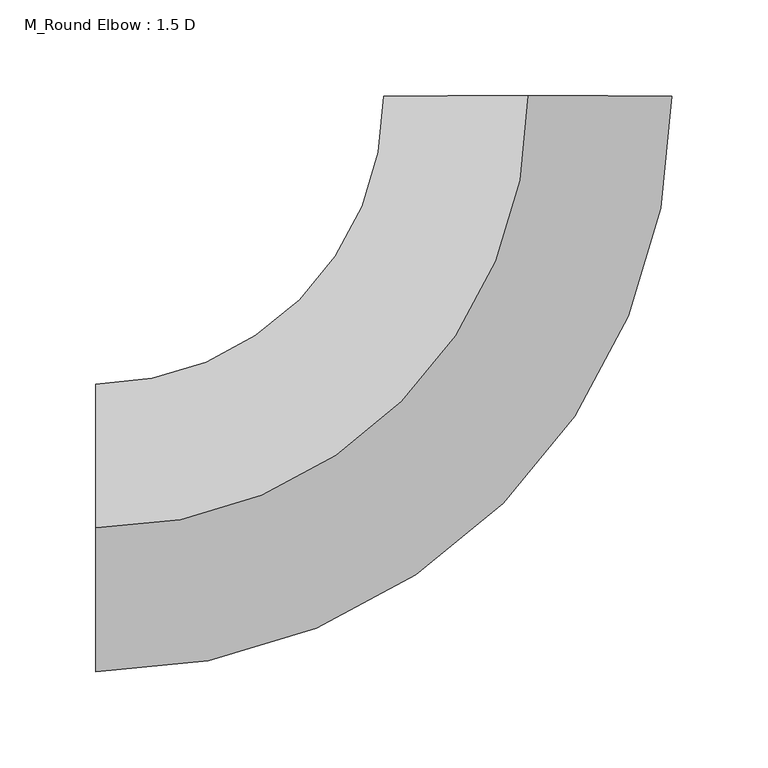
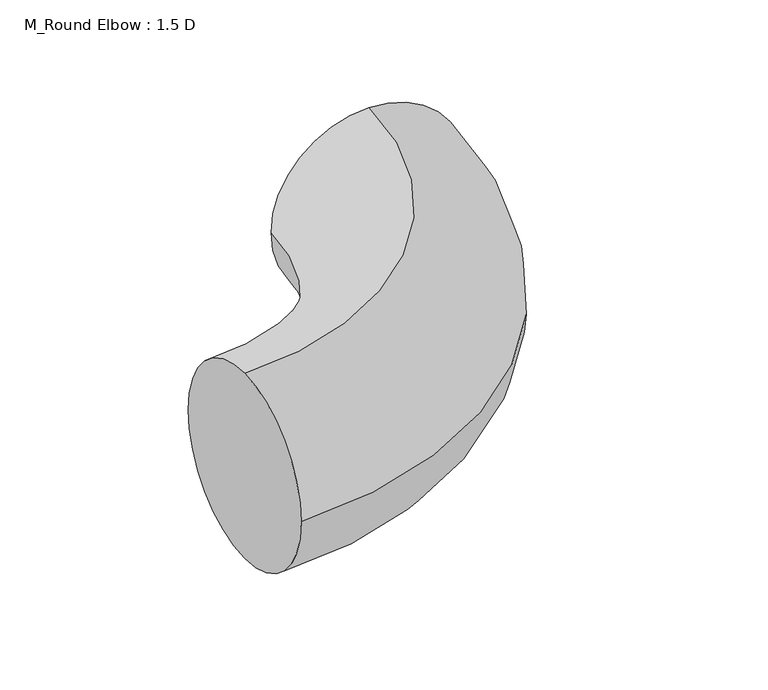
"""IFC4 building model written with IfcOpenShell, lengths in millimetres: duct fitting geometry, M_Round Elbow : 1.5 D."""

from ifc_helpers import new_model, si_unit, point, frame, origin, place, context, project, spatial, circle_curve, ellipse_curve, trimmed, source, transform, mapped, element, save
from ifc_brep_helpers import plane_surface, revolved_surface, advanced_brep


def m_round_elbow_1_5_d_2e586196(model_context):
    return source(origin(), model_context, "Body", "AdvancedBrep", [
        advanced_brep(
        [(-225.0, 0.0, 75.0), (-225.0, 75.0, 0.0), (-225.0, 0.0, -75.0), (-225.0, -75.0, 0.0), (0.0, 225.0, 75.0), (75.0, 225.0, 0.0), (0.0, 225.0, -75.0), (-75.0, 225.0, 0.0)],
        [
            (0, 1, circle_curve(frame((-225.0, 0.0, 0.0), z_axis=(-1.0, 0.0, 0.0), x_axis=(0.0, 1.0, 0.0)), 75.0)),
            (1, 2, circle_curve(frame((-225.0, 0.0, 0.0), z_axis=(-1.0, 0.0, 0.0), x_axis=(0.0, 1.0, 0.0)), 75.0)),
            (2, 3, circle_curve(frame((-225.0, 0.0, 0.0), z_axis=(-1.0, 0.0, 0.0), x_axis=(0.0, 1.0, 0.0)), 75.0)),
            (3, 0, circle_curve(frame((-225.0, 0.0, 0.0), z_axis=(-1.0, 0.0, 0.0), x_axis=(0.0, 1.0, 0.0)), 75.0)),
            (4, 5, circle_curve(frame((0.0, 225.0, 0.0), z_axis=(0.0, 1.0, 0.0), x_axis=(-1.0, 0.0, 0.0)), 75.0)),
            (5, 6, circle_curve(frame((0.0, 225.0, 0.0), z_axis=(0.0, 1.0, 0.0), x_axis=(-1.0, 0.0, 0.0)), 75.0)),
            (6, 7, circle_curve(frame((0.0, 225.0, 0.0), z_axis=(0.0, 1.0, 0.0), x_axis=(-1.0, 0.0, 0.0)), 75.0)),
            (7, 4, circle_curve(frame((0.0, 225.0, 0.0), z_axis=(0.0, 1.0, 0.0), x_axis=(-1.0, 0.0, 0.0)), 75.0)),
            (7, 1, circle_curve(frame((-225.0, 225.0, 0.0), z_axis=(0.0, 0.0, -1.0), x_axis=(0.0, -1.0, 0.0)), 150.0)),
            (0, 4, circle_curve(frame((-225.0, 225.0, 75.0), z_axis=(0.0, 0.0, 1.0), x_axis=(0.0, -1.0, 0.0)), 225.0)),
            (6, 2, circle_curve(frame((-225.0, 225.0, -75.0), z_axis=(0.0, 0.0, -1.0), x_axis=(0.0, -1.0, 0.0)), 225.0)),
            (5, 3, circle_curve(frame((-225.0, 225.0, 0.0), z_axis=(0.0, 0.0, -1.0), x_axis=(0.0, -1.0, 0.0)), 300.0)),
        ],
        [
            plane_surface(frame((-225.0, 0.0, 0.0), z_axis=(-1.0, 0.0, 0.0), x_axis=(0.0, 0.0, 1.0))),
            plane_surface(frame((0.0, 225.0, 0.0), z_axis=(0.0, 1.0, 0.0), x_axis=(0.0, 0.0, 1.0))),
            revolved_surface(trimmed(ellipse_curve(frame((-225.0, 0.0, 0.0), z_axis=(-1.0, 0.0, 0.0), x_axis=(0.0, 1.0, 0.0)), 75.0, 75.0), [point((-225.0, 0.0, 75.0))], [point((-225.0, 75.0, 0.0))], True, "CARTESIAN"), (-225.0, 225.0, 0.0), (0.0, 0.0, 1.0)),
            revolved_surface(trimmed(ellipse_curve(frame((-225.0, 0.0, 0.0), z_axis=(-1.0, 0.0, 0.0), x_axis=(0.0, 1.0, 0.0)), 75.0, 75.0), [point((-225.0, 75.0, 0.0))], [point((-225.0, 0.0, -75.0))], True, "CARTESIAN"), (-225.0, 225.0, 0.0), (0.0, 0.0, 1.0)),
            revolved_surface(trimmed(ellipse_curve(frame((-225.0, 0.0, 0.0), z_axis=(-1.0, 0.0, 0.0), x_axis=(0.0, 1.0, 0.0)), 75.0, 75.0), [point((-225.0, 0.0, -75.0))], [point((-225.0, -75.0, 0.0))], True, "CARTESIAN"), (-225.0, 225.0, 0.0), (0.0, 0.0, 1.0)),
            revolved_surface(trimmed(ellipse_curve(frame((-225.0, 0.0, 0.0), z_axis=(-1.0, 0.0, 0.0), x_axis=(0.0, 1.0, 0.0)), 75.0, 75.0), [point((-225.0, -75.0, 0.0))], [point((-225.0, 0.0, 75.0))], True, "CARTESIAN"), (-225.0, 225.0, 0.0), (0.0, 0.0, 1.0)),
        ],
        [
            (0, [[1, 2, 3, 4]]),
            (1, [[5, 6, 7, 8]]),
            (2, [[9, -1, 10, -8]]),
            (3, [[11, -2, -9, -7]]),
            (4, [[12, -3, -11, -6]]),
            (5, [[-10, -4, -12, -5]]),
        ],
    ),
        advanced_brep(
        [(-225.0, 0.0, 75.0), (-225.0, 75.0, 0.0), (-225.0, 0.0, -75.0), (-225.0, -75.0, 0.0), (0.0, 225.0, 75.0), (75.0, 225.0, 0.0), (0.0, 225.0, -75.0), (-75.0, 225.0, 0.0)],
        [
            (0, 1, circle_curve(frame((-225.0, 0.0, 0.0), z_axis=(-1.0, 0.0, 0.0), x_axis=(0.0, 1.0, 0.0)), 75.0)),
            (1, 2, circle_curve(frame((-225.0, 0.0, 0.0), z_axis=(-1.0, 0.0, 0.0), x_axis=(0.0, 1.0, 0.0)), 75.0)),
            (2, 3, circle_curve(frame((-225.0, 0.0, 0.0), z_axis=(-1.0, 0.0, 0.0), x_axis=(0.0, 1.0, 0.0)), 75.0)),
            (3, 0, circle_curve(frame((-225.0, 0.0, 0.0), z_axis=(-1.0, 0.0, 0.0), x_axis=(0.0, 1.0, 0.0)), 75.0)),
            (4, 5, circle_curve(frame((0.0, 225.0, 0.0), z_axis=(0.0, 1.0, 0.0), x_axis=(-1.0, 0.0, 0.0)), 75.0)),
            (5, 6, circle_curve(frame((0.0, 225.0, 0.0), z_axis=(0.0, 1.0, 0.0), x_axis=(-1.0, 0.0, 0.0)), 75.0)),
            (6, 7, circle_curve(frame((0.0, 225.0, 0.0), z_axis=(0.0, 1.0, 0.0), x_axis=(-1.0, 0.0, 0.0)), 75.0)),
            (7, 4, circle_curve(frame((0.0, 225.0, 0.0), z_axis=(0.0, 1.0, 0.0), x_axis=(-1.0, 0.0, 0.0)), 75.0)),
            (7, 1, circle_curve(frame((-225.0, 225.0, 0.0), z_axis=(0.0, 0.0, -1.0), x_axis=(0.0, -1.0, 0.0)), 150.0)),
            (0, 4, circle_curve(frame((-225.0, 225.0, 75.0), z_axis=(0.0, 0.0, 1.0), x_axis=(0.0, -1.0, 0.0)), 225.0)),
            (6, 2, circle_curve(frame((-225.0, 225.0, -75.0), z_axis=(0.0, 0.0, -1.0), x_axis=(0.0, -1.0, 0.0)), 225.0)),
            (5, 3, circle_curve(frame((-225.0, 225.0, 0.0), z_axis=(0.0, 0.0, -1.0), x_axis=(0.0, -1.0, 0.0)), 300.0)),
        ],
        [
            plane_surface(frame((-225.0, 0.0, 0.0), z_axis=(-1.0, 0.0, 0.0), x_axis=(0.0, 0.0, 1.0))),
            plane_surface(frame((0.0, 225.0, 0.0), z_axis=(0.0, 1.0, 0.0), x_axis=(0.0, 0.0, 1.0))),
            revolved_surface(trimmed(ellipse_curve(frame((-225.0, 0.0, 0.0), z_axis=(-1.0, 0.0, 0.0), x_axis=(0.0, 1.0, 0.0)), 75.0, 75.0), [point((-225.0, 0.0, 75.0))], [point((-225.0, 75.0, 0.0))], True, "CARTESIAN"), (-225.0, 225.0, 0.0), (0.0, 0.0, 1.0)),
            revolved_surface(trimmed(ellipse_curve(frame((-225.0, 0.0, 0.0), z_axis=(-1.0, 0.0, 0.0), x_axis=(0.0, 1.0, 0.0)), 75.0, 75.0), [point((-225.0, 75.0, 0.0))], [point((-225.0, 0.0, -75.0))], True, "CARTESIAN"), (-225.0, 225.0, 0.0), (0.0, 0.0, 1.0)),
            revolved_surface(trimmed(ellipse_curve(frame((-225.0, 0.0, 0.0), z_axis=(-1.0, 0.0, 0.0), x_axis=(0.0, 1.0, 0.0)), 75.0, 75.0), [point((-225.0, 0.0, -75.0))], [point((-225.0, -75.0, 0.0))], True, "CARTESIAN"), (-225.0, 225.0, 0.0), (0.0, 0.0, 1.0)),
            revolved_surface(trimmed(ellipse_curve(frame((-225.0, 0.0, 0.0), z_axis=(-1.0, 0.0, 0.0), x_axis=(0.0, 1.0, 0.0)), 75.0, 75.0), [point((-225.0, -75.0, 0.0))], [point((-225.0, 0.0, 75.0))], True, "CARTESIAN"), (-225.0, 225.0, 0.0), (0.0, 0.0, 1.0)),
        ],
        [
            (0, [[1, 2, 3, 4]]),
            (1, [[5, 6, 7, 8]]),
            (2, [[9, -1, 10, -8]]),
            (3, [[11, -2, -9, -7]]),
            (4, [[12, -3, -11, -6]]),
            (5, [[-10, -4, -12, -5]]),
        ],
    ),
        advanced_brep(
        [(-225.0, 0.0, 75.0), (-225.0, 75.0, 0.0), (-225.0, 0.0, -75.0), (-225.0, -75.0, 0.0), (0.0, 225.0, 75.0), (75.0, 225.0, 0.0), (0.0, 225.0, -75.0), (-75.0, 225.0, 0.0)],
        [
            (0, 1, circle_curve(frame((-225.0, 0.0, 0.0), z_axis=(-1.0, 0.0, 0.0), x_axis=(0.0, 1.0, 0.0)), 75.0)),
            (1, 2, circle_curve(frame((-225.0, 0.0, 0.0), z_axis=(-1.0, 0.0, 0.0), x_axis=(0.0, 1.0, 0.0)), 75.0)),
            (2, 3, circle_curve(frame((-225.0, 0.0, 0.0), z_axis=(-1.0, 0.0, 0.0), x_axis=(0.0, 1.0, 0.0)), 75.0)),
            (3, 0, circle_curve(frame((-225.0, 0.0, 0.0), z_axis=(-1.0, 0.0, 0.0), x_axis=(0.0, 1.0, 0.0)), 75.0)),
            (4, 5, circle_curve(frame((0.0, 225.0, 0.0), z_axis=(0.0, 1.0, 0.0), x_axis=(-1.0, 0.0, 0.0)), 75.0)),
            (5, 6, circle_curve(frame((0.0, 225.0, 0.0), z_axis=(0.0, 1.0, 0.0), x_axis=(-1.0, 0.0, 0.0)), 75.0)),
            (6, 7, circle_curve(frame((0.0, 225.0, 0.0), z_axis=(0.0, 1.0, 0.0), x_axis=(-1.0, 0.0, 0.0)), 75.0)),
            (7, 4, circle_curve(frame((0.0, 225.0, 0.0), z_axis=(0.0, 1.0, 0.0), x_axis=(-1.0, 0.0, 0.0)), 75.0)),
            (7, 1, circle_curve(frame((-225.0, 225.0, 0.0), z_axis=(0.0, 0.0, -1.0), x_axis=(0.0, -1.0, 0.0)), 150.0)),
            (0, 4, circle_curve(frame((-225.0, 225.0, 75.0), z_axis=(0.0, 0.0, 1.0), x_axis=(0.0, -1.0, 0.0)), 225.0)),
            (6, 2, circle_curve(frame((-225.0, 225.0, -75.0), z_axis=(0.0, 0.0, -1.0), x_axis=(0.0, -1.0, 0.0)), 225.0)),
            (5, 3, circle_curve(frame((-225.0, 225.0, 0.0), z_axis=(0.0, 0.0, -1.0), x_axis=(0.0, -1.0, 0.0)), 300.0)),
        ],
        [
            plane_surface(frame((-225.0, 0.0, 0.0), z_axis=(-1.0, 0.0, 0.0), x_axis=(0.0, 0.0, 1.0))),
            plane_surface(frame((0.0, 225.0, 0.0), z_axis=(0.0, 1.0, 0.0), x_axis=(0.0, 0.0, 1.0))),
            revolved_surface(trimmed(ellipse_curve(frame((-225.0, 0.0, 0.0), z_axis=(-1.0, 0.0, 0.0), x_axis=(0.0, 1.0, 0.0)), 75.0, 75.0), [point((-225.0, 0.0, 75.0))], [point((-225.0, 75.0, 0.0))], True, "CARTESIAN"), (-225.0, 225.0, 0.0), (0.0, 0.0, 1.0)),
            revolved_surface(trimmed(ellipse_curve(frame((-225.0, 0.0, 0.0), z_axis=(-1.0, 0.0, 0.0), x_axis=(0.0, 1.0, 0.0)), 75.0, 75.0), [point((-225.0, 75.0, 0.0))], [point((-225.0, 0.0, -75.0))], True, "CARTESIAN"), (-225.0, 225.0, 0.0), (0.0, 0.0, 1.0)),
            revolved_surface(trimmed(ellipse_curve(frame((-225.0, 0.0, 0.0), z_axis=(-1.0, 0.0, 0.0), x_axis=(0.0, 1.0, 0.0)), 75.0, 75.0), [point((-225.0, 0.0, -75.0))], [point((-225.0, -75.0, 0.0))], True, "CARTESIAN"), (-225.0, 225.0, 0.0), (0.0, 0.0, 1.0)),
            revolved_surface(trimmed(ellipse_curve(frame((-225.0, 0.0, 0.0), z_axis=(-1.0, 0.0, 0.0), x_axis=(0.0, 1.0, 0.0)), 75.0, 75.0), [point((-225.0, -75.0, 0.0))], [point((-225.0, 0.0, 75.0))], True, "CARTESIAN"), (-225.0, 225.0, 0.0), (0.0, 0.0, 1.0)),
        ],
        [
            (0, [[1, 2, 3, 4]]),
            (1, [[5, 6, 7, 8]]),
            (2, [[9, -1, 10, -8]]),
            (3, [[11, -2, -9, -7]]),
            (4, [[12, -3, -11, -6]]),
            (5, [[-10, -4, -12, -5]]),
        ],
    ),
    ])


if __name__ == "__main__":
    model = new_model("IFC4")
    model_context = context("Model", 3, world=origin())
    ifc_project = project(units=[si_unit("LENGTHUNIT", "METRE", prefix="MILLI")], contexts=[model_context])
    site = spatial("IfcSite", under=ifc_project)
    building = spatial("IfcBuilding", under=site)
    placement = place(None, origin())
    m_round_elbow_1_5_d_shape = m_round_elbow_1_5_d_2e586196(model_context)
    element("IfcDuctFitting", 1, ObjectType="M_Round Elbow : 1.5 D", at=placement, inside=building, context=model_context, shape_type="MappedRepresentation", body=[
        mapped(m_round_elbow_1_5_d_shape, transform((0.0, 0.0, 0.0), x_axis=(1.0, 0.0, 0.0), y_axis=(0.0, 1.0, 0.0), z_axis=(0.0, 0.0, 1.0))),
    ])
    save(model, "model.ifc")
